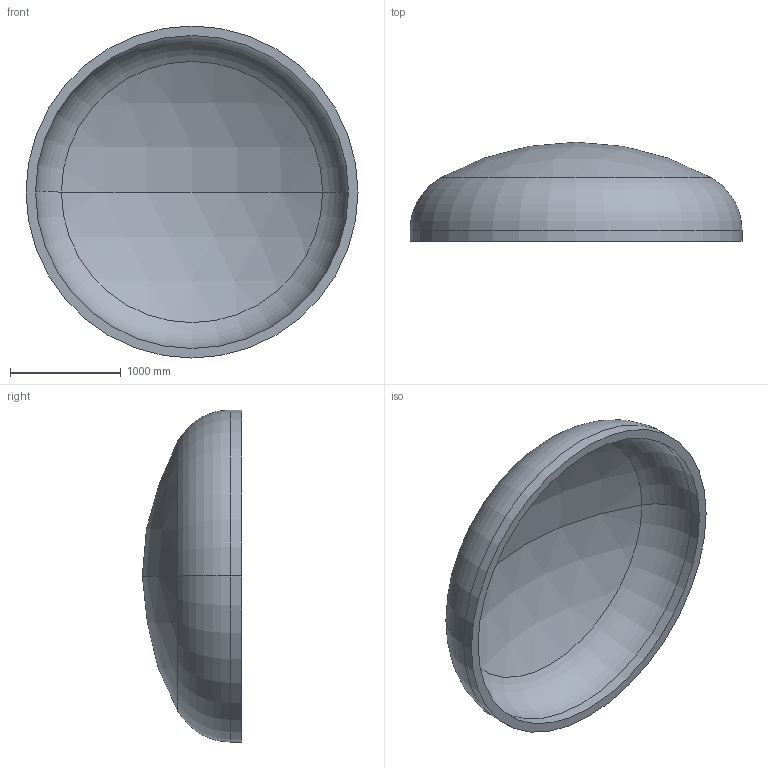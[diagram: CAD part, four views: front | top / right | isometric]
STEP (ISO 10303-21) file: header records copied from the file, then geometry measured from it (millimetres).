
FILE_DESCRIPTION (( 'STEP AP203' ), '1' );
FILE_NAME ('DIN 28013 Korbbogenform_-_Boden DIN 28013 - 3000 x 100 - I - s=86.step', '2016-07-01T18:02:43', ( '' ), ( '' ), 'SwSTEP 2.0', 'SolidWorks 2013', '' );
FILE_SCHEMA (( 'CONFIG_CONTROL_DESIGN' ));
Length unit declared in the file: millimetre
Products named in the file (1): DIN 28013 Korbbogenform_-_Boden DIN 28013 - 3000 x 100 - I - s=86
Bounding box: 3000 x 896.77 x 3000 mm (x, y, z)
Volume: 888975727.9 mm3; surface area: 21476633.1 mm2
Topology: 1 solids, 1 shells, 13 faces, 24 edges, 14 vertices
Faces by surface type: torus 4, cylinder 4, sphere 4, plane 1
Entity records: 407 total; most frequent: DIRECTION 72, CARTESIAN_POINT 52, ORIENTED_EDGE 48, AXIS2_PLACEMENT_3D 34, EDGE_CURVE 24, CIRCLE 20, VERTEX_POINT 14, EDGE_LOOP 14
